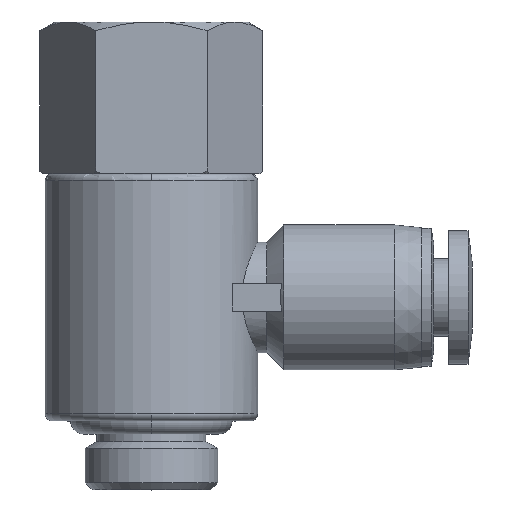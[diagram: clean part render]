
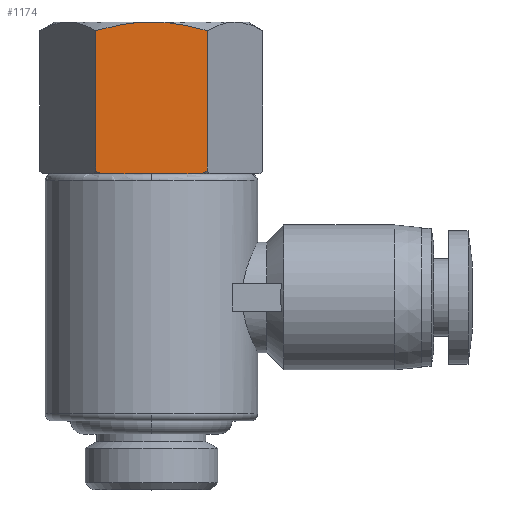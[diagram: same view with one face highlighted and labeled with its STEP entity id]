
A CAD part, top view. The second image highlights one B-rep face of the part: STEP entity #1174.
In plain terms, the highlighted planar face has unit normal (0, 0, 1).
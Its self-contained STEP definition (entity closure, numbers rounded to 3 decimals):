
#111 = VERTEX_POINT ( 'NONE', #1095 ) ;
#170 = ORIENTED_EDGE ( 'NONE', *, *, #2174, .F. ) ;
#181 = CARTESIAN_POINT ( 'NONE',  ( 4.041, 41.775, 7. ) ) ;
#203 = CARTESIAN_POINT ( 'NONE',  ( -1.876, 42.4, 7. ) ) ;
#243 = CARTESIAN_POINT ( 'NONE',  ( 4.041, 41.775, 7. ) ) ;
#250 = LINE ( 'NONE', #1793, #2706 ) ;
#295 = VERTEX_POINT ( 'NONE', #2071 ) ;
#302 = DIRECTION ( 'NONE',  ( -1., 0., 0. ) ) ;
#400 = ORIENTED_EDGE ( 'NONE', *, *, #876, .F. ) ;
#569 = CARTESIAN_POINT ( 'NONE',  ( -4.041, 31.6, 7. ) ) ;
#658 = CARTESIAN_POINT ( 'NONE',  ( 4.041, 31.6, 7. ) ) ;
#671 = CARTESIAN_POINT ( 'NONE',  ( 3.831, 31.495, 7. ) ) ;
#692 =( BOUNDED_CURVE ( )  B_SPLINE_CURVE ( 2, ( #1373, #2049, #243 ),
 .UNSPECIFIED., .F., .T. ) 
 B_SPLINE_CURVE_WITH_KNOTS ( ( 3, 3 ),
 ( 0.41, 0.82 ),
 .UNSPECIFIED. ) 
 CURVE ( )  GEOMETRIC_REPRESENTATION_ITEM ( )  RATIONAL_B_SPLINE_CURVE ( ( 1., 1.038, 1. ) ) 
 REPRESENTATION_ITEM ( '' )  );
#813 = EDGE_CURVE ( 'NONE', #1848, #1646, #250, .T. ) ;
#876 = EDGE_CURVE ( 'NONE', #2131, #1848, #1519, .T. ) ;
#884 = DIRECTION ( 'NONE',  ( 1., 0., 0. ) ) ;
#898 = FACE_OUTER_BOUND ( 'NONE', #1666, .T. ) ;
#979 = LINE ( 'NONE', #1694, #1681 ) ;
#984 = VERTEX_POINT ( 'NONE', #1454 ) ;
#986 =( BOUNDED_CURVE ( )  B_SPLINE_CURVE ( 2, ( #2701, #203, #1513 ),
 .UNSPECIFIED., .F., .F. ) 
 B_SPLINE_CURVE_WITH_KNOTS ( ( 3, 3 ),
 ( 0., 0.41 ),
 .UNSPECIFIED. ) 
 CURVE ( )  GEOMETRIC_REPRESENTATION_ITEM ( )  RATIONAL_B_SPLINE_CURVE ( ( 1., 1.038, 1. ) ) 
 REPRESENTATION_ITEM ( '' )  );
#1041 = CARTESIAN_POINT ( 'NONE',  ( -4.041, 41.775, 7. ) ) ;
#1095 = CARTESIAN_POINT ( 'NONE',  ( -4.041, 31.6, 7. ) ) ;
#1135 = CARTESIAN_POINT ( 'NONE',  ( 0., 42.4, 7. ) ) ;
#1145 = DIRECTION ( 'NONE',  ( -1., 0., 0. ) ) ;
#1154 = AXIS2_PLACEMENT_3D ( 'NONE', #2905, #2474, #884 ) ;
#1159 = CARTESIAN_POINT ( 'NONE',  ( 4.041, 31.6, 7. ) ) ;
#1174 = ADVANCED_FACE ( 'NONE', ( #898 ), #2028, .T. ) ;
#1297 = ORIENTED_EDGE ( 'NONE', *, *, #1718, .F. ) ;
#1298 = DIRECTION ( 'NONE',  ( 0., -1., 0. ) ) ;
#1373 = CARTESIAN_POINT ( 'NONE',  ( 0., 42.4, 7. ) ) ;
#1435 = LINE ( 'NONE', #2351, #1727 ) ;
#1448 = DIRECTION ( 'NONE',  ( -1., 0., 0. ) ) ;
#1454 = CARTESIAN_POINT ( 'NONE',  ( -3.625, 31.4, 7. ) ) ;
#1461 = CARTESIAN_POINT ( 'NONE',  ( 1.685, 31.4, 7. ) ) ;
#1465 = ORIENTED_EDGE ( 'NONE', *, *, #1598, .F. ) ;
#1496 = EDGE_CURVE ( 'NONE', #1816, #1742, #692, .T. ) ;
#1513 = CARTESIAN_POINT ( 'NONE',  ( 0., 42.4, 7. ) ) ;
#1517 = ORIENTED_EDGE ( 'NONE', *, *, #1546, .F. ) ;
#1518 = LINE ( 'NONE', #2877, #2862 ) ;
#1519 =( BOUNDED_CURVE ( )  B_SPLINE_CURVE ( 2, ( #1159, #671, #1559 ),
 .UNSPECIFIED., .F., .F. ) 
 B_SPLINE_CURVE_WITH_KNOTS ( ( 3, 3 ),
 ( 0., 0.046 ),
 .UNSPECIFIED. ) 
 CURVE ( )  GEOMETRIC_REPRESENTATION_ITEM ( )  RATIONAL_B_SPLINE_CURVE ( ( 1., 1., 1. ) ) 
 REPRESENTATION_ITEM ( '' )  );
#1531 = LINE ( 'NONE', #1957, #2204 ) ;
#1546 = EDGE_CURVE ( 'NONE', #1646, #295, #1435, .T. ) ;
#1559 = CARTESIAN_POINT ( 'NONE',  ( 3.625, 31.4, 7. ) ) ;
#1598 = EDGE_CURVE ( 'NONE', #295, #984, #979, .T. ) ;
#1646 = VERTEX_POINT ( 'NONE', #1461 ) ;
#1666 = EDGE_LOOP ( 'NONE', ( #170, #1297, #2553, #1465, #1517, #2589, #400, #2412, #2463 ) ) ;
#1681 = VECTOR ( 'NONE', #302, 1000. ) ;
#1694 = CARTESIAN_POINT ( 'NONE',  ( -1.685, 31.4, 7. ) ) ;
#1718 = EDGE_CURVE ( 'NONE', #111, #2868, #1531, .T. ) ;
#1727 = VECTOR ( 'NONE', #1448, 1000. ) ;
#1742 = VERTEX_POINT ( 'NONE', #181 ) ;
#1775 = EDGE_CURVE ( 'NONE', #1742, #2131, #1518, .T. ) ;
#1793 = CARTESIAN_POINT ( 'NONE',  ( 3.625, 31.4, 7. ) ) ;
#1816 = VERTEX_POINT ( 'NONE', #1135 ) ;
#1848 = VERTEX_POINT ( 'NONE', #2504 ) ;
#1905 = CARTESIAN_POINT ( 'NONE',  ( -3.831, 31.495, 7. ) ) ;
#1957 = CARTESIAN_POINT ( 'NONE',  ( -4.041, 31.6, 7. ) ) ;
#2028 = PLANE ( 'NONE',  #1154 ) ;
#2049 = CARTESIAN_POINT ( 'NONE',  ( 1.876, 42.4, 7. ) ) ;
#2071 = CARTESIAN_POINT ( 'NONE',  ( -1.685, 31.4, 7. ) ) ;
#2092 =( BOUNDED_CURVE ( )  B_SPLINE_CURVE ( 2, ( #2542, #1905, #569 ),
 .UNSPECIFIED., .F., .F. ) 
 B_SPLINE_CURVE_WITH_KNOTS ( ( 3, 3 ),
 ( 0., 0.046 ),
 .UNSPECIFIED. ) 
 CURVE ( )  GEOMETRIC_REPRESENTATION_ITEM ( )  RATIONAL_B_SPLINE_CURVE ( ( 1., 1., 1. ) ) 
 REPRESENTATION_ITEM ( '' )  );
#2131 = VERTEX_POINT ( 'NONE', #658 ) ;
#2174 = EDGE_CURVE ( 'NONE', #2868, #1816, #986, .T. ) ;
#2204 = VECTOR ( 'NONE', #2642, 1000. ) ;
#2351 = CARTESIAN_POINT ( 'NONE',  ( 1.685, 31.4, 7. ) ) ;
#2412 = ORIENTED_EDGE ( 'NONE', *, *, #1775, .F. ) ;
#2463 = ORIENTED_EDGE ( 'NONE', *, *, #1496, .F. ) ;
#2474 = DIRECTION ( 'NONE',  ( 0., 0., 1. ) ) ;
#2504 = CARTESIAN_POINT ( 'NONE',  ( 3.625, 31.4, 7. ) ) ;
#2542 = CARTESIAN_POINT ( 'NONE',  ( -3.625, 31.4, 7. ) ) ;
#2553 = ORIENTED_EDGE ( 'NONE', *, *, #2760, .F. ) ;
#2589 = ORIENTED_EDGE ( 'NONE', *, *, #813, .F. ) ;
#2642 = DIRECTION ( 'NONE',  ( 0., 1., 0. ) ) ;
#2701 = CARTESIAN_POINT ( 'NONE',  ( -4.041, 41.775, 7. ) ) ;
#2706 = VECTOR ( 'NONE', #1145, 1000. ) ;
#2760 = EDGE_CURVE ( 'NONE', #984, #111, #2092, .T. ) ;
#2862 = VECTOR ( 'NONE', #1298, 1000. ) ;
#2868 = VERTEX_POINT ( 'NONE', #1041 ) ;
#2877 = CARTESIAN_POINT ( 'NONE',  ( 4.041, 41.775, 7. ) ) ;
#2905 = CARTESIAN_POINT ( 'NONE',  ( -4.041, 42.4, 7. ) ) ;
